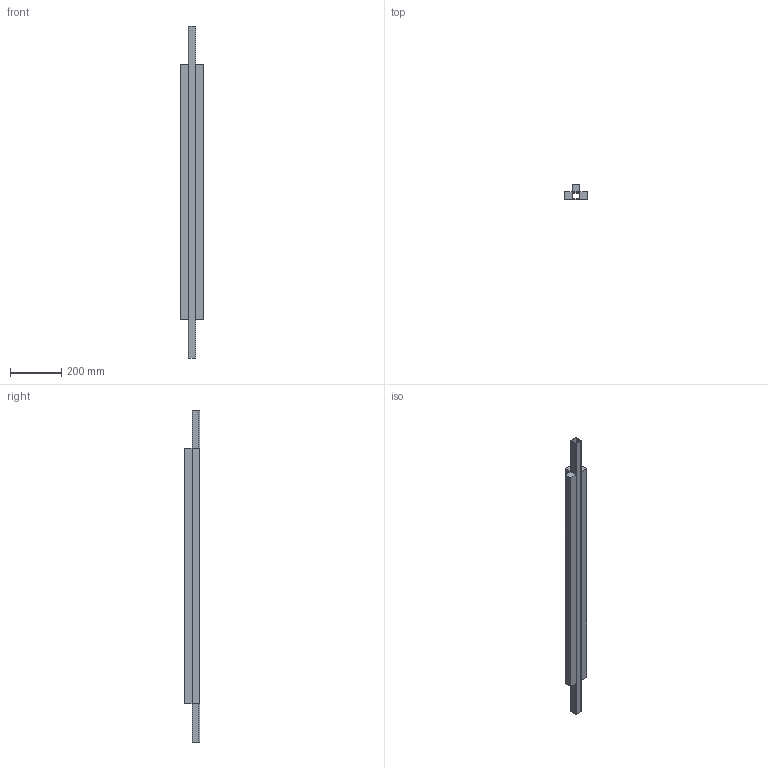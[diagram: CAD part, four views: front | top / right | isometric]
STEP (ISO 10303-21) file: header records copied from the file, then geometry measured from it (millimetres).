
FILE_DESCRIPTION (( 'STEP AP214' ), '1' );
FILE_NAME ('0005500_0_00.step', '2018-07-12T10:41:19', ( '' ), ( '' ), 'SwSTEP 2.0', 'SolidWorks 2018', '' );
FILE_SCHEMA (( 'AUTOMOTIVE_DESIGN' ));
Length unit declared in the file: millimetre
Products named in the file (3): 0005500_0_01_3 lame L=1000; 0005500_0_02_3 lame L=1000; 0005500_0_00
Assembly tree (2 placements, depth 2):
  0005500_0_00
    0005500_0_01_3 lame L=1000
    0005500_0_02_3 lame L=1000
Bounding box: 90 x 60 x 1300 mm (x, y, z)
Volume: 3118882.3 mm3; surface area: 647002 mm2
Topology: 2 solids, 2 shells, 32 faces, 84 edges, 56 vertices
Faces by surface type: plane 24, cylinder 8
Entity records: 1252 total; most frequent: CARTESIAN_POINT 177, DIRECTION 174, ORIENTED_EDGE 168, EDGE_CURVE 84, LINE 68, VECTOR 68, VERTEX_POINT 56, AXIS2_PLACEMENT_3D 53
